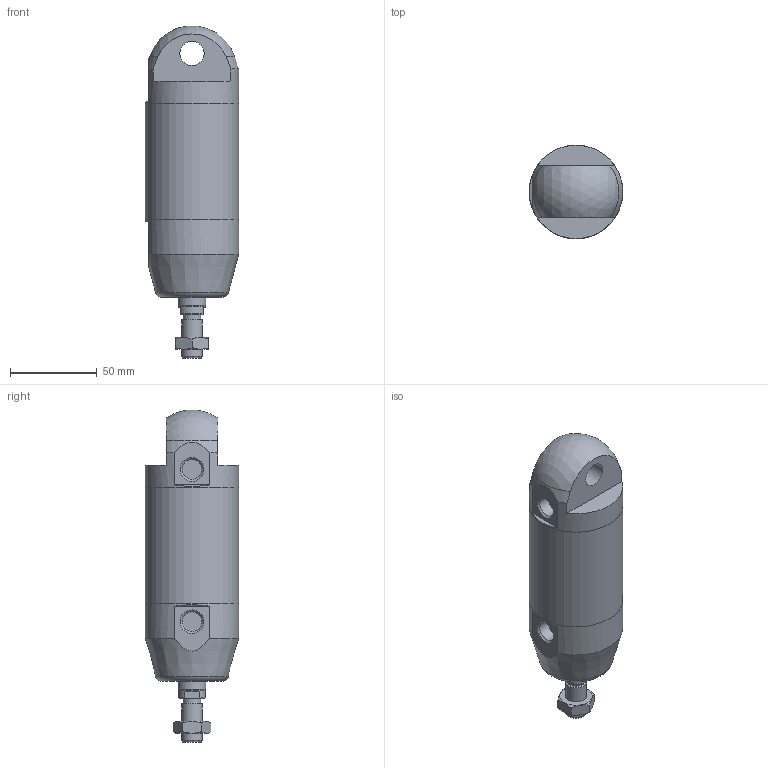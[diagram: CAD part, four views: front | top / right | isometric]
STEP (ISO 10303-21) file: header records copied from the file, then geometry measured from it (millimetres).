
FILE_DESCRIPTION(/* description */ (''),/* implementation_level */ '2;1');
FILE_NAME(/* name */ 'I:\Area Tecnica\Documenti\A-Manieri\_Inventor\12X\12X#A_###_####_#_#\12XAA_050_0025_#_#.stp',/* time_stamp */ '2015-04-22T12:08:23+02:00',/* author */ ('maniean1'),/* organization */ ('Pneumax S.p.A.'),/* preprocessor_version */ 'ST-DEVELOPER v15.2',/* originating_system */ 'Autodesk Inventor 2014',/* authorisation */ '');
FILE_SCHEMA (('AUTOMOTIVE_DESIGN { 1 0 10303 214 3 1 1 }'));
Length unit declared in the file: millimetre
Products named in the file (6): C1250_619-0025; 12X50_613; 12X50_605; S12X50_0025; 12X_50_11; 12XAA_050_0025_#_#
Bounding box: 54 x 54 x 191.83 mm (x, y, z)
Volume: 267342.2 mm3; surface area: 63106.4 mm2
Topology: 5 solids, 5 shells, 59 faces, 126 edges, 81 vertices
Faces by surface type: plane 31, cylinder 14, cone 12, torus 1, sphere 1
Full cylindrical faces by diameter (mm): 10.2 x1, 11.4 x2, 12 x2, 14 x2, 15.6 x1, 16 x1, 50 x2, 54 x3
Entity records: 1560 total; most frequent: CARTESIAN_POINT 288, DIRECTION 266, ORIENTED_EDGE 196, AXIS2_PLACEMENT_3D 120, EDGE_CURVE 98, EDGE_LOOP 94, VERTEX_POINT 76, ADVANCED_FACE 59
